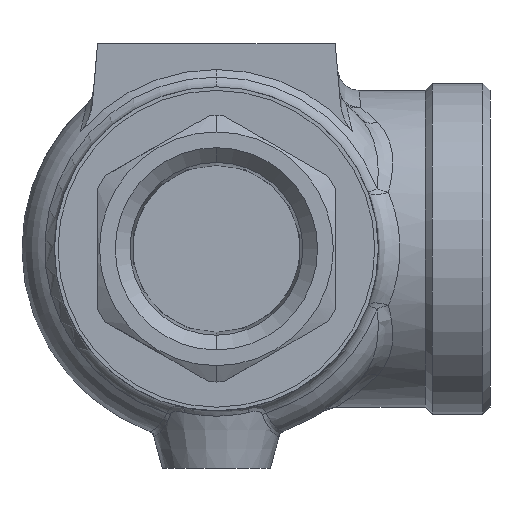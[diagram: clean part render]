
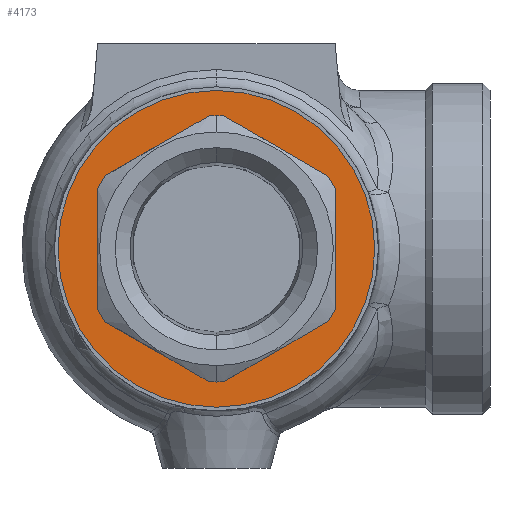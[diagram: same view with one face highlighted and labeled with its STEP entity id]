
A CAD part, front view. The second image highlights one B-rep face of the part: STEP entity #4173.
In plain terms, the highlighted planar face has unit normal (0, -1, 0).
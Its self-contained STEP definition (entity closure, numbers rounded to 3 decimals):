
#7 = DIRECTION ( 'NONE',  ( 0., 1., 0. ) ) ;
#100 = CARTESIAN_POINT ( 'NONE',  ( 0., -31., 0. ) ) ;
#163 = AXIS2_PLACEMENT_3D ( 'NONE', #4279, #7, #1100 ) ;
#173 = ORIENTED_EDGE ( 'NONE', *, *, #447, .F. ) ;
#202 = DIRECTION ( 'NONE',  ( 0., 0., -1. ) ) ;
#246 = EDGE_CURVE ( 'NONE', #1029, #2388, #4495, .T. ) ;
#253 = CARTESIAN_POINT ( 'NONE',  ( -1.004, -31., 18.473 ) ) ;
#314 = CARTESIAN_POINT ( 'NONE',  ( -16.5, -31., -8.367 ) ) ;
#339 = DIRECTION ( 'NONE',  ( 0.866, 0., 0.5 ) ) ;
#431 = CARTESIAN_POINT ( 'NONE',  ( -1.004, -31., -18.473 ) ) ;
#447 = EDGE_CURVE ( 'NONE', #4264, #1990, #1600, .T. ) ;
#503 = DIRECTION ( 'NONE',  ( 0., 0., -1. ) ) ;
#508 = VECTOR ( 'NONE', #2737, 1000. ) ;
#532 = VERTEX_POINT ( 'NONE', #1586 ) ;
#556 = CARTESIAN_POINT ( 'NONE',  ( -15.496, -31., 10.106 ) ) ;
#590 = CIRCLE ( 'NONE', #1271, 18.5 ) ;
#668 = EDGE_CURVE ( 'NONE', #2868, #730, #1412, .T. ) ;
#699 = CARTESIAN_POINT ( 'NONE',  ( 0., -31., 0. ) ) ;
#729 = VERTEX_POINT ( 'NONE', #3942 ) ;
#730 = VERTEX_POINT ( 'NONE', #2712 ) ;
#860 = CARTESIAN_POINT ( 'NONE',  ( 0., -31., 0. ) ) ;
#970 = VECTOR ( 'NONE', #3705, 1000. ) ;
#1029 = VERTEX_POINT ( 'NONE', #314 ) ;
#1100 = DIRECTION ( 'NONE',  ( 0., 0., 1. ) ) ;
#1107 = DIRECTION ( 'NONE',  ( 0., -1., 0. ) ) ;
#1109 = AXIS2_PLACEMENT_3D ( 'NONE', #4391, #4037, #2676 ) ;
#1179 = FACE_BOUND ( 'NONE', #2317, .T. ) ;
#1239 = VERTEX_POINT ( 'NONE', #2213 ) ;
#1258 = VERTEX_POINT ( 'NONE', #431 ) ;
#1271 = AXIS2_PLACEMENT_3D ( 'NONE', #860, #2288, #503 ) ;
#1295 = CARTESIAN_POINT ( 'NONE',  ( -24.75, -31., 4.763 ) ) ;
#1303 = LINE ( 'NONE', #3481, #508 ) ;
#1326 = ORIENTED_EDGE ( 'NONE', *, *, #1685, .F. ) ;
#1370 = CARTESIAN_POINT ( 'NONE',  ( 16.5, -31., -8.367 ) ) ;
#1412 = LINE ( 'NONE', #3565, #3019 ) ;
#1422 = ORIENTED_EDGE ( 'NONE', *, *, #2764, .F. ) ;
#1435 = EDGE_CURVE ( 'NONE', #2388, #1258, #3088, .T. ) ;
#1582 = EDGE_CURVE ( 'NONE', #1239, #3518, #1890, .T. ) ;
#1586 = CARTESIAN_POINT ( 'NONE',  ( 1.004, -31., 18.473 ) ) ;
#1600 = LINE ( 'NONE', #3702, #2452 ) ;
#1648 = CIRCLE ( 'NONE', #3137, 22. ) ;
#1651 = EDGE_LOOP ( 'NONE', ( #4221, #1671 ) ) ;
#1671 = ORIENTED_EDGE ( 'NONE', *, *, #2821, .F. ) ;
#1685 = EDGE_CURVE ( 'NONE', #3101, #2743, #2383, .T. ) ;
#1744 = ORIENTED_EDGE ( 'NONE', *, *, #3455, .F. ) ;
#1751 = CARTESIAN_POINT ( 'NONE',  ( 0., -31., -22. ) ) ;
#1783 = EDGE_CURVE ( 'NONE', #1990, #3839, #3955, .T. ) ;
#1784 = CIRCLE ( 'NONE', #4420, 18.5 ) ;
#1831 = PLANE ( 'NONE',  #4336 ) ;
#1890 = CIRCLE ( 'NONE', #163, 22. ) ;
#1951 = DIRECTION ( 'NONE',  ( 0., 0., 1. ) ) ;
#1990 = VERTEX_POINT ( 'NONE', #2285 ) ;
#2088 = DIRECTION ( 'NONE',  ( 0., 0., -1. ) ) ;
#2213 = CARTESIAN_POINT ( 'NONE',  ( 0., -31., 22. ) ) ;
#2233 = VECTOR ( 'NONE', #3627, 1000. ) ;
#2257 = ORIENTED_EDGE ( 'NONE', *, *, #2615, .F. ) ;
#2285 = CARTESIAN_POINT ( 'NONE',  ( 16.5, -31., 8.367 ) ) ;
#2288 = DIRECTION ( 'NONE',  ( 0., -1., 0. ) ) ;
#2317 = EDGE_LOOP ( 'NONE', ( #4178, #2257, #4486, #173, #1422, #2491, #3784, #2475, #3115, #3144, #4573, #1326, #1744 ) ) ;
#2383 = CIRCLE ( 'NONE', #1109, 18.5 ) ;
#2388 = VERTEX_POINT ( 'NONE', #4610 ) ;
#2414 = CARTESIAN_POINT ( 'NONE',  ( -16.5, -31., 8.367 ) ) ;
#2452 = VECTOR ( 'NONE', #3002, 1000. ) ;
#2475 = ORIENTED_EDGE ( 'NONE', *, *, #4287, .F. ) ;
#2491 = ORIENTED_EDGE ( 'NONE', *, *, #668, .F. ) ;
#2537 = FACE_OUTER_BOUND ( 'NONE', #1651, .T. ) ;
#2548 = CARTESIAN_POINT ( 'NONE',  ( -16.5, -31., 0. ) ) ;
#2581 = CARTESIAN_POINT ( 'NONE',  ( 0., -31., 0. ) ) ;
#2615 = EDGE_CURVE ( 'NONE', #3839, #532, #1303, .T. ) ;
#2646 = VERTEX_POINT ( 'NONE', #253 ) ;
#2676 = DIRECTION ( 'NONE',  ( 0., 0., -1. ) ) ;
#2677 = DIRECTION ( 'NONE',  ( 0., 1., 0. ) ) ;
#2708 = CARTESIAN_POINT ( 'NONE',  ( 0., -31., 0. ) ) ;
#2712 = CARTESIAN_POINT ( 'NONE',  ( 15.496, -31., -10.106 ) ) ;
#2737 = DIRECTION ( 'NONE',  ( -0.866, 0., 0.5 ) ) ;
#2743 = VERTEX_POINT ( 'NONE', #2414 ) ;
#2764 = EDGE_CURVE ( 'NONE', #730, #4264, #3511, .T. ) ;
#2788 = DIRECTION ( 'NONE',  ( 0., -1., 0. ) ) ;
#2821 = EDGE_CURVE ( 'NONE', #3518, #1239, #1648, .T. ) ;
#2851 = CARTESIAN_POINT ( 'NONE',  ( 1.004, -31., -18.473 ) ) ;
#2868 = VERTEX_POINT ( 'NONE', #2851 ) ;
#2882 = DIRECTION ( 'NONE',  ( 0., 0., -1. ) ) ;
#2948 = DIRECTION ( 'NONE',  ( 0., 0., -1. ) ) ;
#3002 = DIRECTION ( 'NONE',  ( 0., 0., 1. ) ) ;
#3019 = VECTOR ( 'NONE', #339, 1000. ) ;
#3023 = CARTESIAN_POINT ( 'NONE',  ( 15.496, -31., 10.106 ) ) ;
#3088 = LINE ( 'NONE', #3871, #4150 ) ;
#3101 = VERTEX_POINT ( 'NONE', #556 ) ;
#3115 = ORIENTED_EDGE ( 'NONE', *, *, #1435, .F. ) ;
#3137 = AXIS2_PLACEMENT_3D ( 'NONE', #4181, #2677, #1951 ) ;
#3144 = ORIENTED_EDGE ( 'NONE', *, *, #246, .F. ) ;
#3210 = DIRECTION ( 'NONE',  ( 0., 0., -1. ) ) ;
#3212 = AXIS2_PLACEMENT_3D ( 'NONE', #2581, #3359, #2882 ) ;
#3227 = LINE ( 'NONE', #2548, #2233 ) ;
#3282 = AXIS2_PLACEMENT_3D ( 'NONE', #2708, #2788, #202 ) ;
#3287 = DIRECTION ( 'NONE',  ( 0., 0., -1. ) ) ;
#3359 = DIRECTION ( 'NONE',  ( 0., -1., 0. ) ) ;
#3455 = EDGE_CURVE ( 'NONE', #2646, #3101, #3730, .T. ) ;
#3481 = CARTESIAN_POINT ( 'NONE',  ( -8.25, -31., 23.816 ) ) ;
#3500 = DIRECTION ( 'NONE',  ( 0.866, 0., -0.5 ) ) ;
#3503 = DIRECTION ( 'NONE',  ( 0., -1., 0. ) ) ;
#3511 = CIRCLE ( 'NONE', #4265, 18.5 ) ;
#3518 = VERTEX_POINT ( 'NONE', #1751 ) ;
#3565 = CARTESIAN_POINT ( 'NONE',  ( -8.25, -31., -23.816 ) ) ;
#3584 = DIRECTION ( 'NONE',  ( 0., -1., 0. ) ) ;
#3627 = DIRECTION ( 'NONE',  ( 0., 0., -1. ) ) ;
#3702 = CARTESIAN_POINT ( 'NONE',  ( 16.5, -31., 0. ) ) ;
#3705 = DIRECTION ( 'NONE',  ( -0.866, 0., -0.5 ) ) ;
#3730 = LINE ( 'NONE', #1295, #970 ) ;
#3784 = ORIENTED_EDGE ( 'NONE', *, *, #3922, .F. ) ;
#3839 = VERTEX_POINT ( 'NONE', #3023 ) ;
#3871 = CARTESIAN_POINT ( 'NONE',  ( -24.75, -31., -4.763 ) ) ;
#3894 = CARTESIAN_POINT ( 'NONE',  ( 0., -31., 0. ) ) ;
#3922 = EDGE_CURVE ( 'NONE', #729, #2868, #590, .T. ) ;
#3942 = CARTESIAN_POINT ( 'NONE',  ( 0., -31., -18.5 ) ) ;
#3955 = CIRCLE ( 'NONE', #3282, 18.5 ) ;
#4037 = DIRECTION ( 'NONE',  ( 0., -1., 0. ) ) ;
#4041 = CIRCLE ( 'NONE', #3212, 18.5 ) ;
#4109 = EDGE_CURVE ( 'NONE', #532, #2646, #4041, .T. ) ;
#4150 = VECTOR ( 'NONE', #3500, 1000. ) ;
#4173 = ADVANCED_FACE ( 'NONE', ( #1179, #2537 ), #1831, .T. ) ;
#4178 = ORIENTED_EDGE ( 'NONE', *, *, #4109, .F. ) ;
#4181 = CARTESIAN_POINT ( 'NONE',  ( 0., -31., 0. ) ) ;
#4185 = AXIS2_PLACEMENT_3D ( 'NONE', #100, #3584, #2948 ) ;
#4221 = ORIENTED_EDGE ( 'NONE', *, *, #1582, .F. ) ;
#4264 = VERTEX_POINT ( 'NONE', #1370 ) ;
#4265 = AXIS2_PLACEMENT_3D ( 'NONE', #3894, #4644, #3210 ) ;
#4279 = CARTESIAN_POINT ( 'NONE',  ( 0., -31., 0. ) ) ;
#4287 = EDGE_CURVE ( 'NONE', #1258, #729, #1784, .T. ) ;
#4336 = AXIS2_PLACEMENT_3D ( 'NONE', #4397, #1107, #3287 ) ;
#4391 = CARTESIAN_POINT ( 'NONE',  ( 0., -31., 0. ) ) ;
#4397 = CARTESIAN_POINT ( 'NONE',  ( -22., -31., 0. ) ) ;
#4420 = AXIS2_PLACEMENT_3D ( 'NONE', #699, #3503, #2088 ) ;
#4486 = ORIENTED_EDGE ( 'NONE', *, *, #1783, .F. ) ;
#4495 = CIRCLE ( 'NONE', #4185, 18.5 ) ;
#4499 = EDGE_CURVE ( 'NONE', #2743, #1029, #3227, .T. ) ;
#4573 = ORIENTED_EDGE ( 'NONE', *, *, #4499, .F. ) ;
#4610 = CARTESIAN_POINT ( 'NONE',  ( -15.496, -31., -10.106 ) ) ;
#4644 = DIRECTION ( 'NONE',  ( 0., -1., 0. ) ) ;
